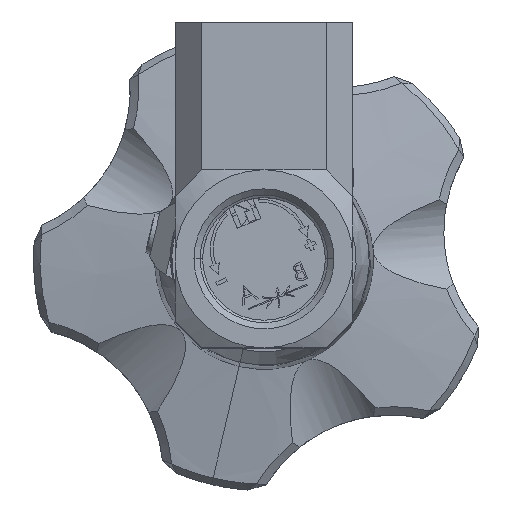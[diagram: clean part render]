
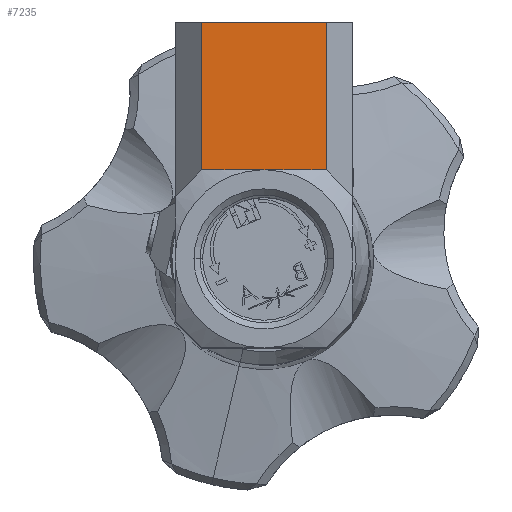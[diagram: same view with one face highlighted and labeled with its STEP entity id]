
A CAD part, top view. The second image highlights one B-rep face of the part: STEP entity #7235.
In plain terms, the highlighted planar face has unit normal (0, 0, 1).
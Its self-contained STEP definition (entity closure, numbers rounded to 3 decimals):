
#527 = EDGE_CURVE ( 'NONE', #5521, #16257, #22179, .T. ) ;
#1271 = DIRECTION ( 'NONE',  ( 0., 0., -1. ) ) ;
#1297 = CARTESIAN_POINT ( 'NONE',  ( -13.5, 35.995, 5. ) ) ;
#1457 = EDGE_LOOP ( 'NONE', ( #4679, #32466, #27086, #8933 ) ) ;
#2606 = CARTESIAN_POINT ( 'NONE',  ( 9.5, 36., 5. ) ) ;
#4679 = ORIENTED_EDGE ( 'NONE', *, *, #29497, .F. ) ;
#5521 = VERTEX_POINT ( 'NONE', #32445 ) ;
#7235 = ADVANCED_FACE ( 'NONE', ( #22782 ), #21957, .F. ) ;
#8933 = ORIENTED_EDGE ( 'NONE', *, *, #527, .T. ) ;
#9313 = LINE ( 'NONE', #28436, #22294 ) ;
#9345 = CARTESIAN_POINT ( 'NONE',  ( -9.5, 35.995, 5. ) ) ;
#12290 = VECTOR ( 'NONE', #25403, 1000. ) ;
#12967 = DIRECTION ( 'NONE',  ( 0., 1., 0. ) ) ;
#14706 = CARTESIAN_POINT ( 'NONE',  ( -9.5, 13.5, 5. ) ) ;
#15295 = VECTOR ( 'NONE', #12967, 1000. ) ;
#16257 = VERTEX_POINT ( 'NONE', #30864 ) ;
#16867 = CARTESIAN_POINT ( 'NONE',  ( -13.5, 36., 5. ) ) ;
#19469 = DIRECTION ( 'NONE',  ( -1., 0., 0. ) ) ;
#19513 = AXIS2_PLACEMENT_3D ( 'NONE', #16867, #1271, #19469 ) ;
#20037 = LINE ( 'NONE', #22785, #12290 ) ;
#21381 = EDGE_CURVE ( 'NONE', #30957, #5521, #20037, .T. ) ;
#21800 = VECTOR ( 'NONE', #32402, 1000. ) ;
#21957 = PLANE ( 'NONE',  #19513 ) ;
#22068 = EDGE_CURVE ( 'NONE', #31168, #30957, #9313, .T. ) ;
#22179 = LINE ( 'NONE', #2606, #15295 ) ;
#22294 = VECTOR ( 'NONE', #28326, 1000. ) ;
#22588 = LINE ( 'NONE', #1297, #21800 ) ;
#22782 = FACE_OUTER_BOUND ( 'NONE', #1457, .T. ) ;
#22785 = CARTESIAN_POINT ( 'NONE',  ( -13.5, 13.5, 5. ) ) ;
#25403 = DIRECTION ( 'NONE',  ( 1., 0., 0. ) ) ;
#27086 = ORIENTED_EDGE ( 'NONE', *, *, #21381, .T. ) ;
#28326 = DIRECTION ( 'NONE',  ( 0., -1., 0. ) ) ;
#28436 = CARTESIAN_POINT ( 'NONE',  ( -9.5, 36., 5. ) ) ;
#29497 = EDGE_CURVE ( 'NONE', #31168, #16257, #22588, .T. ) ;
#30864 = CARTESIAN_POINT ( 'NONE',  ( 9.5, 35.995, 5. ) ) ;
#30957 = VERTEX_POINT ( 'NONE', #14706 ) ;
#31168 = VERTEX_POINT ( 'NONE', #9345 ) ;
#32402 = DIRECTION ( 'NONE',  ( 1., 0., 0. ) ) ;
#32445 = CARTESIAN_POINT ( 'NONE',  ( 9.5, 13.5, 5. ) ) ;
#32466 = ORIENTED_EDGE ( 'NONE', *, *, #22068, .T. ) ;
